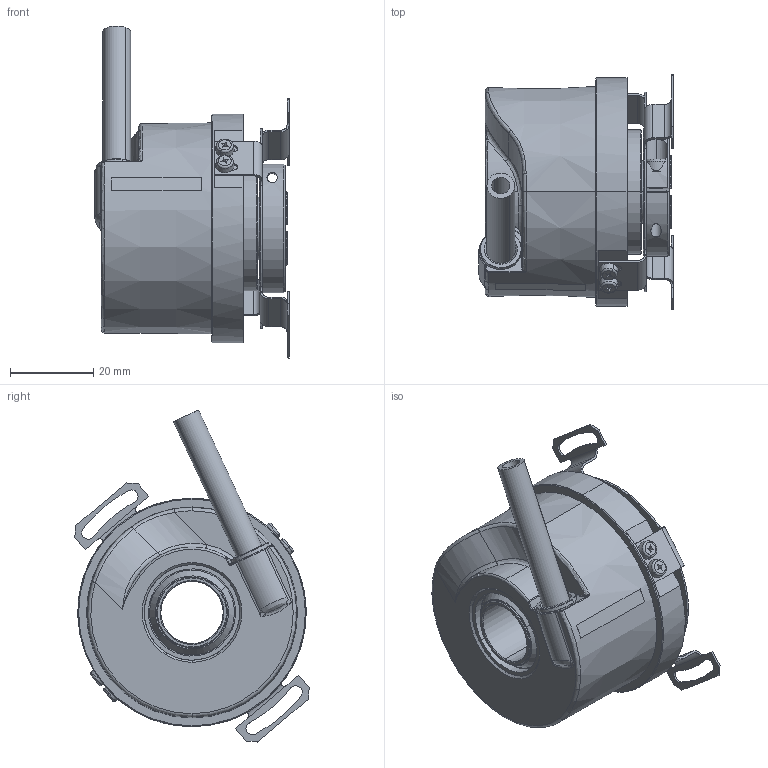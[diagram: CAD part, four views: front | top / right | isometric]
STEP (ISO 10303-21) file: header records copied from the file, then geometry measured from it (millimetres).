
FILE_DESCRIPTION (( 'STEP AP214' ), '1' );
FILE_NAME ('8.5020.D8XE.XXXX.STEP', '2011-01-11T07:27:38', ( 'admin' ), ( 'Fritz Kübler GmbH' ), 'SwSTEP 2.0', 'SolidWorks 2009', '' );
FILE_SCHEMA (( 'AUTOMOTIVE_DESIGN' ));
Length unit declared in the file: millimetre
Products named in the file (1): 8.5020.D8XE.XXXX
Bounding box: 46.8 x 56.46 x 79.93 mm (x, y, z)
Surface area: 21451 mm2 (no closed solid volume)
Topology: 0 solids, 15 shells, 302 faces, 883 edges, 571 vertices
Faces by surface type: plane 121, cylinder 102, cone 37, torus 26, bspline 16
Entity records: 15896 total; most frequent: CARTESIAN_POINT 4614, DIRECTION 1715, ORIENTED_EDGE 1510, EDGE_CURVE 878, AXIS2_PLACEMENT_3D 639, VERTEX_POINT 571, VECTOR 437, LINE 437
